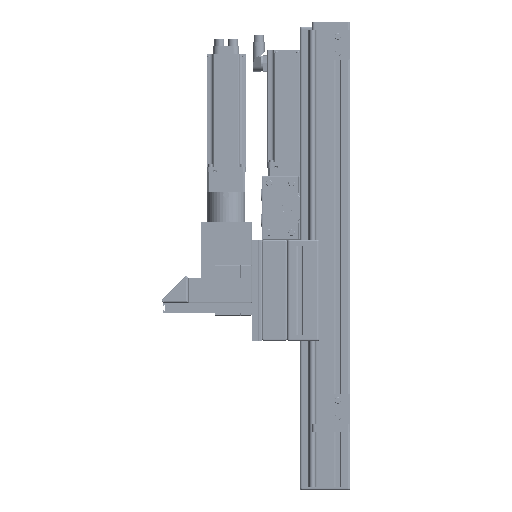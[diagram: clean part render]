
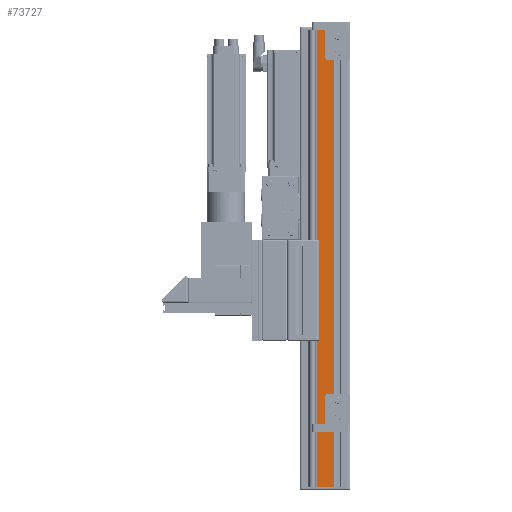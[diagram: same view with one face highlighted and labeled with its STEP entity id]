
A CAD part, front view. The second image highlights one B-rep face of the part: STEP entity #73727.
In plain terms, the highlighted planar face has unit normal (0, -1, 0) as drawn and (0, 0, 1) by its records, which use the part's own axes.
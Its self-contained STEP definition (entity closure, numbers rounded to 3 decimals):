
#16780=ORIENTED_EDGE('',*,*,#32672,.F.);
#16781=ORIENTED_EDGE('',*,*,#32642,.T.);
#16782=ORIENTED_EDGE('',*,*,#32673,.T.);
#16783=ORIENTED_EDGE('',*,*,#32310,.F.);
#32310=EDGE_CURVE('',#41182,#41183,#47750,.T.);
#32642=EDGE_CURVE('',#41515,#41514,#47905,.T.);
#32672=EDGE_CURVE('',#41515,#41182,#47921,.T.);
#32673=EDGE_CURVE('',#41514,#41183,#47922,.T.);
#41182=VERTEX_POINT('',#133840);
#41183=VERTEX_POINT('',#133842);
#41514=VERTEX_POINT('',#134505);
#41515=VERTEX_POINT('',#134507);
#47750=LINE('',#133841,#53722);
#47905=LINE('',#134506,#53877);
#47921=LINE('',#134564,#53893);
#47922=LINE('',#134565,#53894);
#53722=VECTOR('',#109806,1000.);
#53877=VECTOR('',#110317,1000.);
#53893=VECTOR('',#110367,1000.);
#53894=VECTOR('',#110368,1000.);
#59887=EDGE_LOOP('',(#16780,#16781,#16782,#16783));
#66087=FACE_BOUND('',#59887,.T.);
#70480=PLANE('',#95082);
#73727=ADVANCED_FACE('',(#66087),#70480,.F.);
#95082=AXIS2_PLACEMENT_3D('',#134563,#110365,#110366);
#109806=DIRECTION('',(-1.,0.,0.));
#110317=DIRECTION('',(-1.,0.,0.));
#110365=DIRECTION('',(0.,0.,-1.));
#110366=DIRECTION('',(-1.,0.,0.));
#110367=DIRECTION('',(0.,-1.,0.));
#110368=DIRECTION('',(0.,-1.,0.));
#133840=CARTESIAN_POINT('',(14.5,-361.,20.));
#133841=CARTESIAN_POINT('',(40.,-361.,20.));
#133842=CARTESIAN_POINT('',(-14.5,-361.,20.));
#134505=CARTESIAN_POINT('',(-14.5,361.,20.));
#134506=CARTESIAN_POINT('',(40.,361.,20.));
#134507=CARTESIAN_POINT('',(14.5,361.,20.));
#134563=CARTESIAN_POINT('',(40.,-361.,20.));
#134564=CARTESIAN_POINT('',(14.5,-361.,20.));
#134565=CARTESIAN_POINT('',(-14.5,366.575,20.));
